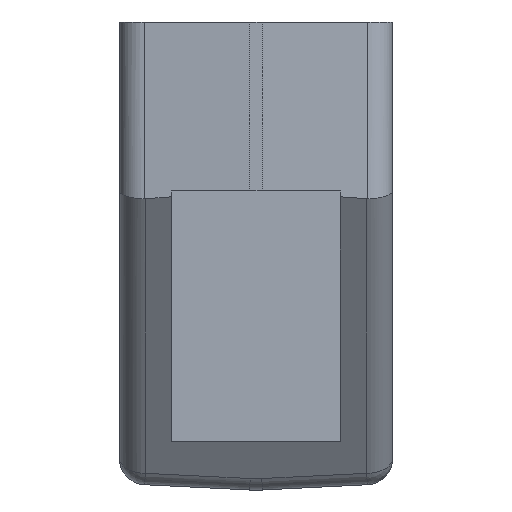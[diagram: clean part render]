
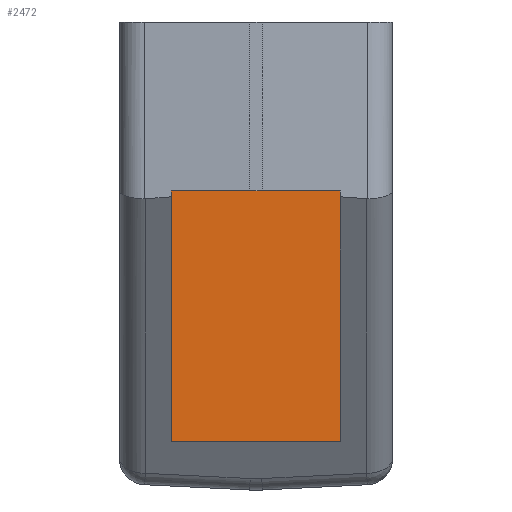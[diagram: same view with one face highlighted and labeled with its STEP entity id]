
A CAD part, left-side view. The second image highlights one B-rep face of the part: STEP entity #2472.
In plain terms, the highlighted planar face has unit normal (-1, 0, 0).
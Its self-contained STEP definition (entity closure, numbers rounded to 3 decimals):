
#68=DIRECTION('',(0.,1.,0.));
#69=VECTOR('',#68,13.);
#70=CARTESIAN_POINT('',(-40.5,-6.5,-32.29));
#71=LINE('',#70,#69);
#307=DIRECTION('',(0.,0.,-1.));
#308=VECTOR('',#307,19.29);
#309=CARTESIAN_POINT('',(-40.5,6.5,-13.));
#310=LINE('',#309,#308);
#319=DIRECTION('',(0.,0.,-1.));
#320=VECTOR('',#319,19.29);
#321=CARTESIAN_POINT('',(-40.5,-6.5,-13.));
#322=LINE('',#321,#320);
#905=DIRECTION('',(0.,-1.,0.));
#906=VECTOR('',#905,13.);
#907=CARTESIAN_POINT('',(-40.5,6.5,-13.));
#908=LINE('',#907,#906);
#925=CARTESIAN_POINT('',(-40.5,6.5,-13.));
#926=CARTESIAN_POINT('',(-40.5,-6.5,-13.));
#927=VERTEX_POINT('',#925);
#928=VERTEX_POINT('',#926);
#933=CARTESIAN_POINT('',(-40.5,-6.5,-32.29));
#934=CARTESIAN_POINT('',(-40.5,6.5,-32.29));
#935=VERTEX_POINT('',#933);
#936=VERTEX_POINT('',#934);
#2461=CARTESIAN_POINT('',(-40.5,6.5,-13.));
#2462=DIRECTION('',(1.,0.,0.));
#2463=DIRECTION('',(0.,0.,-1.));
#2464=AXIS2_PLACEMENT_3D('',#2461,#2462,#2463);
#2465=PLANE('',#2464);
#2466=ORIENTED_EDGE('',*,*,#1261,.T.);
#2467=ORIENTED_EDGE('',*,*,#1584,.F.);
#2468=ORIENTED_EDGE('',*,*,#1816,.T.);
#2469=ORIENTED_EDGE('',*,*,#1623,.T.);
#2470=EDGE_LOOP('',(#2466,#2467,#2468,#2469));
#2471=FACE_OUTER_BOUND('',#2470,.F.);
#2472=ADVANCED_FACE('',(#2471),#2465,.F.);
#1261=EDGE_CURVE('',#935,#936,#71,.T.);
#1584=EDGE_CURVE('',#927,#936,#310,.T.);
#1623=EDGE_CURVE('',#928,#935,#322,.T.);
#1816=EDGE_CURVE('',#927,#928,#908,.T.);
